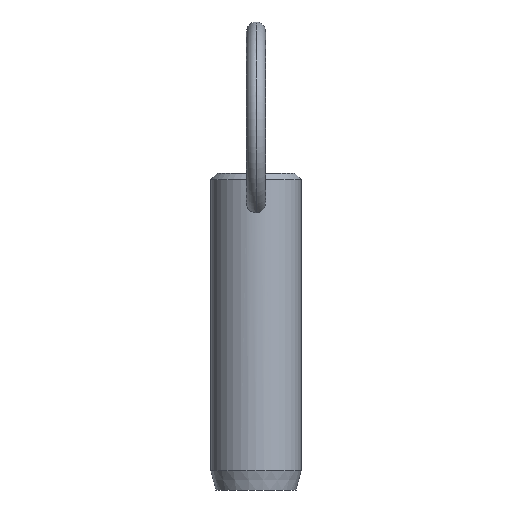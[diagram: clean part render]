
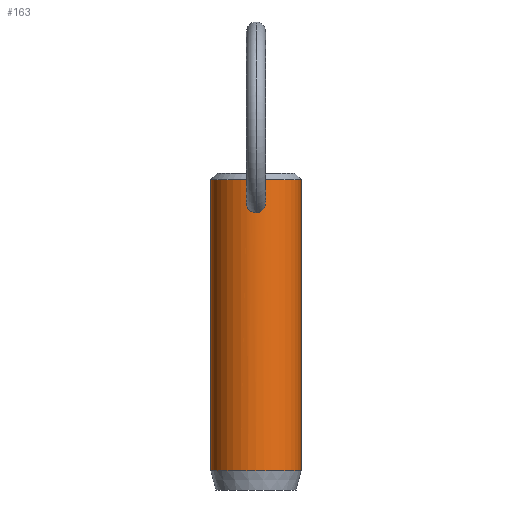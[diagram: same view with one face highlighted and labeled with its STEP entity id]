
A CAD part, front view. The second image highlights one B-rep face of the part: STEP entity #163.
In plain terms, the highlighted cylindrical face has radius 7.1 mm (diameter 14.2 mm), a partial arc.
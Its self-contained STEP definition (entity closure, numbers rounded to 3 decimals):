
#1 = CARTESIAN_POINT ( 'NONE',  ( 0.941, -7.038, 29.209 ) ) ;
#9 = VECTOR ( 'NONE', #114, 1000. ) ;
#11 = CARTESIAN_POINT ( 'NONE',  ( -1.347, -6.971, 27.048 ) ) ;
#15 = CARTESIAN_POINT ( 'NONE',  ( -0.981, -7.033, 26.534 ) ) ;
#19 = CARTESIAN_POINT ( 'NONE',  ( -1.483, -6.944, 27.45 ) ) ;
#20 = CARTESIAN_POINT ( 'NONE',  ( 7.1, 0., -14.4 ) ) ;
#27 = CARTESIAN_POINT ( 'NONE',  ( 1.254, -6.99, 26.855 ) ) ;
#34 = CARTESIAN_POINT ( 'NONE',  ( -7.1, 0., -14.4 ) ) ;
#36 = DIRECTION ( 'NONE',  ( 0., 0., -1. ) ) ;
#37 = CIRCLE ( 'NONE', #312, 7.1 ) ;
#39 = CARTESIAN_POINT ( 'NONE',  ( 7.1, 0., 24.5 ) ) ;
#49 = EDGE_CURVE ( 'NONE', #348, #228, #359, .T. ) ;
#53 = CARTESIAN_POINT ( 'NONE',  ( -1.203, -6.999, 28.882 ) ) ;
#57 = CARTESIAN_POINT ( 'NONE',  ( 1.05, -7.022, 26.615 ) ) ;
#61 = CARTESIAN_POINT ( 'NONE',  ( -0.212, -7.098, 26.191 ) ) ;
#68 = CARTESIAN_POINT ( 'NONE',  ( 1.489, -6.942, 28.083 ) ) ;
#85 = ORIENTED_EDGE ( 'NONE', *, *, #481, .F. ) ;
#90 = CARTESIAN_POINT ( 'NONE',  ( 1.011, -7.028, 29.131 ) ) ;
#96 = ORIENTED_EDGE ( 'NONE', *, *, #430, .T. ) ;
#103 = CARTESIAN_POINT ( 'NONE',  ( 0.213, -7.098, 29.624 ) ) ;
#106 = AXIS2_PLACEMENT_3D ( 'NONE', #487, #440, #160 ) ;
#110 = CARTESIAN_POINT ( 'NONE',  ( -0.422, -7.09, 29.577 ) ) ;
#114 = DIRECTION ( 'NONE',  ( 0., 0., -1. ) ) ;
#127 = DIRECTION ( 'NONE',  ( 0., 0., 1. ) ) ;
#139 = CARTESIAN_POINT ( 'NONE',  ( 0.714, -7.065, 26.359 ) ) ;
#145 = CARTESIAN_POINT ( 'NONE',  ( 0.417, -7.088, 29.566 ) ) ;
#146 = CARTESIAN_POINT ( 'NONE',  ( 0.973, -7.034, 26.541 ) ) ;
#148 = CARTESIAN_POINT ( 'NONE',  ( 0.698, -7.066, 29.416 ) ) ;
#154 = CARTESIAN_POINT ( 'NONE',  ( -0.107, -7.1, 26.179 ) ) ;
#158 = VERTEX_POINT ( 'NONE', #506 ) ;
#160 = DIRECTION ( 'NONE',  ( -1., 0., 0. ) ) ;
#161 = LINE ( 'NONE', #39, #540 ) ;
#163 = ADVANCED_FACE ( 'NONE', ( #251, #218 ), #497, .T. ) ;
#191 = VERTEX_POINT ( 'NONE', #488 ) ;
#193 = CARTESIAN_POINT ( 'NONE',  ( -1.246, -6.99, 26.863 ) ) ;
#209 = CARTESIAN_POINT ( 'NONE',  ( 1.304, -6.98, 28.691 ) ) ;
#217 = VERTEX_POINT ( 'NONE', #20 ) ;
#218 = FACE_BOUND ( 'NONE', #467, .T. ) ;
#220 = ORIENTED_EDGE ( 'NONE', *, *, #358, .T. ) ;
#223 = EDGE_CURVE ( 'NONE', #191, #443, #335, .T. ) ;
#224 = CARTESIAN_POINT ( 'NONE',  ( -0.782, -7.057, 29.353 ) ) ;
#227 = ORIENTED_EDGE ( 'NONE', *, *, #543, .T. ) ;
#228 = VERTEX_POINT ( 'NONE', #523 ) ;
#251 = FACE_OUTER_BOUND ( 'NONE', #299, .T. ) ;
#257 = CARTESIAN_POINT ( 'NONE',  ( 0., -7.1, 26.179 ) ) ;
#260 = AXIS2_PLACEMENT_3D ( 'NONE', #493, #36, #491 ) ;
#261 = CARTESIAN_POINT ( 'NONE',  ( 0.516, -7.082, 29.522 ) ) ;
#263 = CARTESIAN_POINT ( 'NONE',  ( -0.696, -7.066, 29.417 ) ) ;
#267 = CARTESIAN_POINT ( 'NONE',  ( 0., -7.1, 29.64 ) ) ;
#268 = CARTESIAN_POINT ( 'NONE',  ( -0.808, -7.056, 26.403 ) ) ;
#274 = CARTESIAN_POINT ( 'NONE',  ( 1.447, -6.951, 28.293 ) ) ;
#276 = CARTESIAN_POINT ( 'NONE',  ( 1.357, -6.969, 27.046 ) ) ;
#299 = EDGE_LOOP ( 'NONE', ( #85, #227, #396, #96 ) ) ;
#301 = CARTESIAN_POINT ( 'NONE',  ( -1.507, -6.938, 27.663 ) ) ;
#305 = CARTESIAN_POINT ( 'NONE',  ( -1.388, -6.963, 27.145 ) ) ;
#312 = AXIS2_PLACEMENT_3D ( 'NONE', #494, #127, #328 ) ;
#315 = CARTESIAN_POINT ( 'NONE',  ( 1.482, -6.944, 27.447 ) ) ;
#316 = B_SPLINE_CURVE_WITH_KNOTS ( 'NONE', 3,
 ( #317, #154, #61, #439, #517, #268, #15, #509, #193, #11, #305, #19, #301, #384, #389, #515, #53, #484, #349, #224, #263, #110, #344, #267 ),
 .UNSPECIFIED., .F., .F.,
 ( 4, 2, 2, 2, 2, 2, 2, 2, 2, 2, 2, 4 ),
 ( 0.01, 0.01, 0.01, 0.011, 0.011, 0.012, 0.012, 0.013, 0.013, 0.014, 0.014, 0.015 ),
 .UNSPECIFIED. ) ;
#317 = CARTESIAN_POINT ( 'NONE',  ( 0., -7.1, 26.179 ) ) ;
#328 = DIRECTION ( 'NONE',  ( -1., 0., 0. ) ) ;
#335 = LINE ( 'NONE', #352, #9 ) ;
#344 = CARTESIAN_POINT ( 'NONE',  ( -0.212, -7.1, 29.64 ) ) ;
#348 = VERTEX_POINT ( 'NONE', #452 ) ;
#349 = CARTESIAN_POINT ( 'NONE',  ( -0.938, -7.038, 29.212 ) ) ;
#352 = CARTESIAN_POINT ( 'NONE',  ( -7.1, 0., 24.5 ) ) ;
#358 = EDGE_CURVE ( 'NONE', #228, #348, #316, .T. ) ;
#359 = B_SPLINE_CURVE_WITH_KNOTS ( 'NONE', 3,
 ( #388, #508, #103, #145, #261, #148, #501, #1, #90, #386, #209, #274, #68, #394, #315, #276, #27, #57, #146, #431, #139, #473, #474, #257 ),
 .UNSPECIFIED., .F., .F.,
 ( 4, 2, 2, 2, 2, 2, 2, 2, 2, 2, 2, 4 ),
 ( 0.005, 0.005, 0.005, 0.006, 0.006, 0.007, 0.007, 0.008, 0.008, 0.009, 0.009, 0.01 ),
 .UNSPECIFIED. ) ;
#384 = CARTESIAN_POINT ( 'NONE',  ( -1.489, -6.942, 28.088 ) ) ;
#386 = CARTESIAN_POINT ( 'NONE',  ( 1.203, -6.999, 28.88 ) ) ;
#388 = CARTESIAN_POINT ( 'NONE',  ( 0., -7.1, 29.64 ) ) ;
#389 = CARTESIAN_POINT ( 'NONE',  ( -1.446, -6.952, 28.297 ) ) ;
#394 = CARTESIAN_POINT ( 'NONE',  ( 1.507, -6.938, 27.662 ) ) ;
#396 = ORIENTED_EDGE ( 'NONE', *, *, #223, .T. ) ;
#403 = ORIENTED_EDGE ( 'NONE', *, *, #49, .T. ) ;
#430 = EDGE_CURVE ( 'NONE', #443, #217, #37, .T. ) ;
#431 = CARTESIAN_POINT ( 'NONE',  ( 0.804, -7.055, 26.413 ) ) ;
#439 = CARTESIAN_POINT ( 'NONE',  ( -0.419, -7.088, 26.236 ) ) ;
#440 = DIRECTION ( 'NONE',  ( 0., 0., -1. ) ) ;
#443 = VERTEX_POINT ( 'NONE', #34 ) ;
#452 = CARTESIAN_POINT ( 'NONE',  ( 0., -7.1, 29.64 ) ) ;
#467 = EDGE_LOOP ( 'NONE', ( #403, #220 ) ) ;
#473 = CARTESIAN_POINT ( 'NONE',  ( 0.426, -7.09, 26.226 ) ) ;
#474 = CARTESIAN_POINT ( 'NONE',  ( 0.214, -7.1, 26.179 ) ) ;
#481 = EDGE_CURVE ( 'NONE', #158, #217, #161, .T. ) ;
#484 = CARTESIAN_POINT ( 'NONE',  ( -1.009, -7.028, 29.134 ) ) ;
#487 = CARTESIAN_POINT ( 'NONE',  ( 0., 0., 24.5 ) ) ;
#488 = CARTESIAN_POINT ( 'NONE',  ( -7.1, 0., 31.42 ) ) ;
#491 = DIRECTION ( 'NONE',  ( 1., 0., 0. ) ) ;
#493 = CARTESIAN_POINT ( 'NONE',  ( 0., 0., 31.42 ) ) ;
#494 = CARTESIAN_POINT ( 'NONE',  ( 0., 0., -14.4 ) ) ;
#497 = CYLINDRICAL_SURFACE ( 'NONE', #106, 7.1 ) ;
#501 = CARTESIAN_POINT ( 'NONE',  ( 0.784, -7.057, 29.351 ) ) ;
#506 = CARTESIAN_POINT ( 'NONE',  ( 7.1, 0., 31.42 ) ) ;
#508 = CARTESIAN_POINT ( 'NONE',  ( 0.106, -7.1, 29.64 ) ) ;
#509 = CARTESIAN_POINT ( 'NONE',  ( -1.185, -7.001, 26.774 ) ) ;
#515 = CARTESIAN_POINT ( 'NONE',  ( -1.303, -6.98, 28.695 ) ) ;
#517 = CARTESIAN_POINT ( 'NONE',  ( -0.522, -7.081, 26.27 ) ) ;
#523 = CARTESIAN_POINT ( 'NONE',  ( 0., -7.1, 26.179 ) ) ;
#532 = CIRCLE ( 'NONE', #260, 7.1 ) ;
#533 = DIRECTION ( 'NONE',  ( 0., 0., -1. ) ) ;
#540 = VECTOR ( 'NONE', #533, 1000. ) ;
#543 = EDGE_CURVE ( 'NONE', #158, #191, #532, .T. ) ;
